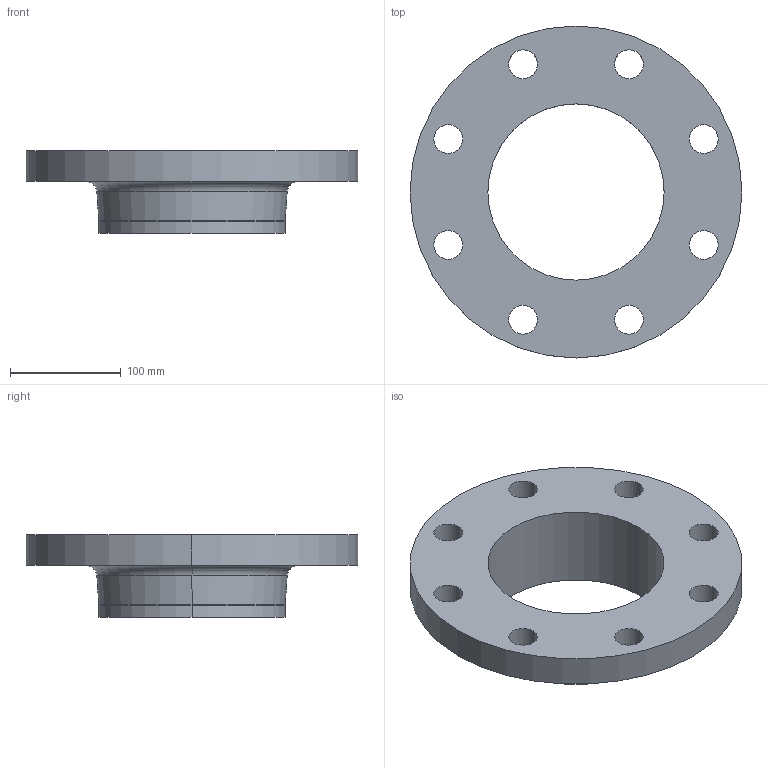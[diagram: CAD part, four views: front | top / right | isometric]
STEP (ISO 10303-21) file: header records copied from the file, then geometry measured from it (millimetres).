
FILE_DESCRIPTION (( 'STEP AP214' ), '1' );
FILE_NAME ('PN40 DN150 Type 11 - Type A Face.STEP', '2019-01-05T00:12:13', ( '' ), ( '' ), 'SwSTEP 2.0', 'SolidWorks 2019', '' );
FILE_SCHEMA (( 'AUTOMOTIVE_DESIGN' ));
Length unit declared in the file: millimetre
Products named in the file (1): PN40 DN150 Type 11 - Type A Face
Bounding box: 300 x 300 x 75 mm (x, y, z)
Volume: 1445154.5 mm3; surface area: 197119.4 mm2
Topology: 1 solids, 1 shells, 31 faces, 78 edges, 50 vertices
Faces by surface type: cylinder 22, torus 4, plane 3, cone 2
Entity records: 1028 total; most frequent: DIRECTION 196, CARTESIAN_POINT 160, ORIENTED_EDGE 156, AXIS2_PLACEMENT_3D 86, EDGE_CURVE 78, CIRCLE 54, EDGE_LOOP 50, VERTEX_POINT 50
